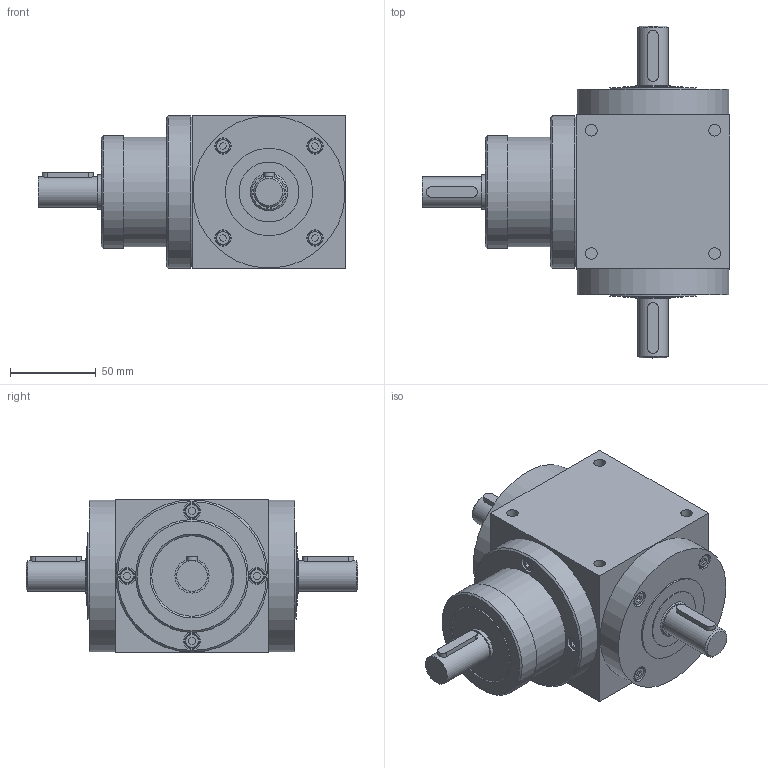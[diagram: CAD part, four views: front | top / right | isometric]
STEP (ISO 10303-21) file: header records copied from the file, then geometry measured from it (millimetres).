
FILE_DESCRIPTION(('STEP AP203'),'1');
FILE_NAME('SMB090.stp','2022-07-27T10:11:13',(' '),(' '),'Spatial InterOp 3D',' ',' ');
FILE_SCHEMA(('CONFIG_CONTROL_DESIGN'));
Length unit declared in the file: millimetre
Products named in the file (25): SMB090; HOUSING; BEARING COVER; INPUT COVER; SHAFT; INPUT SHAFT; OIL SEAL; KEY; BOLT; 스크루 : Socket - M5.0 x 15.0
Assembly tree (24 placements, depth 3):
  SMB090
    HOUSING
    BEARING COVER
    BEARING COVER
    INPUT COVER
    SHAFT
    INPUT SHAFT
    OIL SEAL
    OIL SEAL
    OIL SEAL
    KEY
    KEY
    BOLT
      스크루 : Socket - M5.0 x 15.0
      스크루 : Socket - M5.0 x 15.0
      스크루 : Socket - M5.0 x 15.0
      스크루 : Socket - M5.0 x 15.0
      스크루 : Socket - M5.0 x 15.0
      스크루 : Socket - M5.0 x 15.0
      스크루 : Socket - M5.0 x 15.0
      스크루 : Socket - M5.0 x 15.0
      스크루 : Socket - M5.0 x 15.0
      스크루 : Socket - M5.0 x 15.0
      스크루 : Socket - M5.0 x 15.0
      스크루 : Socket - M5.0 x 15.0
Bounding box: 180 x 194 x 90 mm (x, y, z)
Volume: 875459.2 mm3; surface area: 186606.6 mm2
Topology: 24 solids, 24 shells, 378 faces, 721 edges, 476 vertices
Faces by surface type: plane 221, cylinder 112, cone 45
Full cylindrical faces by diameter (mm): 4.2 x12, 5.5 x12, 6.75 x8, 8.385 x12, 9.5 x12, 18 x3, 20 x2, 22 x4, 25 x3, 30 x1, 31 x2, 35 x4, 38 x1, 47 x5, 51 x2, 62.5 x3, 64 x1, 65 x9, 66 x1, 89 x3
Entity records: 10308 total; most frequent: CARTESIAN_POINT 1720, DIRECTION 1632, ORIENTED_EDGE 1116, AXIS2_PLACEMENT_3D 678, EDGE_LOOP 652, EDGE_CURVE 558, FACE_OUTER_BOUND 478, VERTEX_POINT 458
